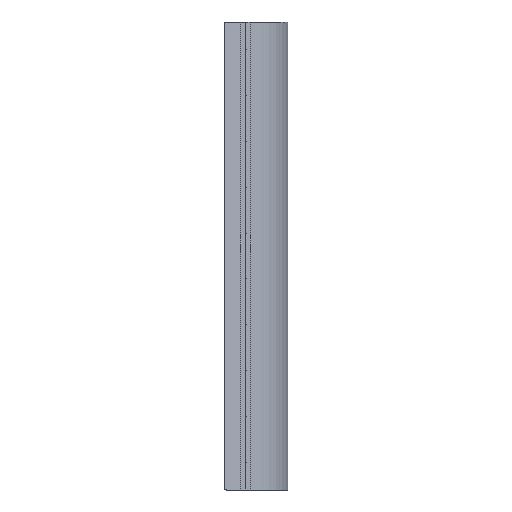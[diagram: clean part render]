
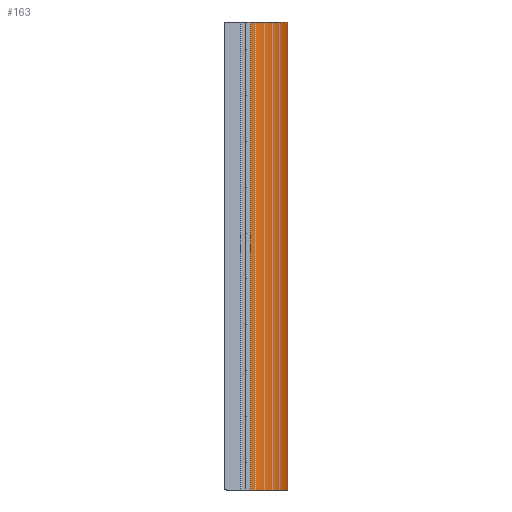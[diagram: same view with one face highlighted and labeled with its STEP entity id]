
A CAD part, front view. The second image highlights one B-rep face of the part: STEP entity #163.
In plain terms, the highlighted cylindrical face has radius 298.913 mm (diameter 597.825 mm), a partial arc.
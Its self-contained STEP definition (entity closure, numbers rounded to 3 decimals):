
#72=CYLINDRICAL_SURFACE('',#3138,298.913);
#163=ADVANCED_FACE('',(#305),#72,.T.);
#305=FACE_OUTER_BOUND('',#447,.F.);
#447=EDGE_LOOP('',(#655,#656,#657,#658));
#655=ORIENTED_EDGE('',*,*,#2258,.T.);
#656=ORIENTED_EDGE('',*,*,#2285,.F.);
#657=ORIENTED_EDGE('',*,*,#2272,.T.);
#658=ORIENTED_EDGE('',*,*,#2286,.T.);
#1701=LINE('',#5287,#1905);
#1702=LINE('',#5288,#1906);
#1905=VECTOR('',#3540,2040.);
#1906=VECTOR('',#3541,2040.);
#2258=EDGE_CURVE('',#2773,#2774,#2589,.T.);
#2272=EDGE_CURVE('',#2765,#2764,#2593,.T.);
#2285=EDGE_CURVE('',#2765,#2774,#1701,.T.);
#2286=EDGE_CURVE('',#2764,#2773,#1702,.T.);
#2589=CIRCLE('',#3047,298.913);
#2593=CIRCLE('',#3051,298.913);
#2764=VERTEX_POINT('',#4210);
#2765=VERTEX_POINT('',#4211);
#2773=VERTEX_POINT('',#4219);
#2774=VERTEX_POINT('',#4220);
#3047=AXIS2_PLACEMENT_3D('',#5260,#3506,#3507);
#3051=AXIS2_PLACEMENT_3D('',#5274,#3524,#3525);
#3138=AXIS2_PLACEMENT_3D('',#5506,#3843,#3844);
#3506=DIRECTION('',(0.,0.,1.));
#3507=DIRECTION('',(0.459,-0.889,0.));
#3524=DIRECTION('',(0.,0.,-1.));
#3525=DIRECTION('',(0.459,0.889,0.));
#3540=DIRECTION('',(0.,0.,1.));
#3541=DIRECTION('',(0.,0.,1.));
#3843=DIRECTION('',(0.,0.,1.));
#3844=DIRECTION('',(0.459,-0.889,0.));
#4210=CARTESIAN_POINT('',(1645.078,-3255.772,4624.766));
#4211=CARTESIAN_POINT('',(1645.078,-2724.523,4624.766));
#4219=CARTESIAN_POINT('',(1645.078,-3255.772,6664.766));
#4220=CARTESIAN_POINT('',(1645.078,-2724.523,6664.766));
#5260=CARTESIAN_POINT('',(1507.993,-2990.148,6664.766));
#5274=CARTESIAN_POINT('',(1507.993,-2990.148,4624.766));
#5287=CARTESIAN_POINT('',(1645.078,-2724.523,4624.766));
#5288=CARTESIAN_POINT('',(1645.078,-3255.772,4624.766));
#5506=CARTESIAN_POINT('',(1507.993,-2990.148,4624.766));
